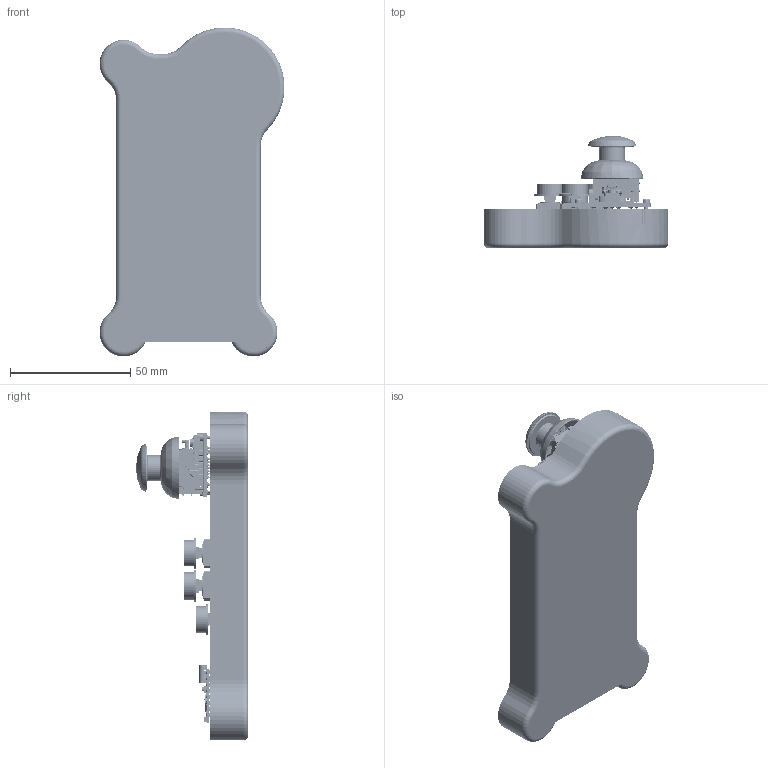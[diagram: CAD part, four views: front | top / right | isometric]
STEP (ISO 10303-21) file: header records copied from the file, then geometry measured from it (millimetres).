
FILE_DESCRIPTION(/* description */ ('','CAx-IF Rec.Pracs.---Representation and Presentation of Product Manufacturing Information (PMI)---4.0---2014-10-13'),/* implementation_level */ '2;1');
FILE_NAME(/* name */ 'esp32_c3_smini_controller_mini.stp',/* time_stamp */ '2026-06-07T19:51:05+02:00',/* author */ ('R5800u'),/* organization */ (''),/* preprocessor_version */ 'ST-DEVELOPER v20',/* originating_system */ 'Autodesk Inventor 2025',/* authorisation */ '');
FILE_SCHEMA (('AP242_MANAGED_MODEL_BASED_3D_ENGINEERING_MIM_LF { 1 0 10303 442 1 1 4 }'));
Products named in the file (58): esp32_c3_smini_scatola; Half-Size Breadboard; Main Half-Size Board; Half-Size Side Rail; scatola_esp32_c3_breadboard; Button 4 pins assembly; socket button; button; ESP32-C3 sm with expansion board; ESP32-C3 Super Mini breakout expansion board mo; ESP32-C3-SuperMini; 2025-08-30-17-43-03-298; 2025-08-30-17-43-03-305; 2025-08-30-17-43-03-307; 2025-08-30-17-43-03-312; 2025-08-30-17-43-03-328; 2025-08-30-17-43-03-327; 2025-08-30-17-43-03-327_1; 2025-08-30-17-43-03-327_2; 2025-08-30-17-43-03-327_3; 2025-08-30-17-43-03-327_4; 2025-08-30-17-43-03-327_5; 2025-08-30-17-43-03-342; 2025-08-30-17-43-03-357; 2025-08-30-17-43-03-358; 2025-08-30-17-43-03-365; 2025-08-30-17-43-03-333; 2025-08-30-17-43-03-333_1; 2025-08-30-17-43-03-333_2; 2025-08-30-17-43-03-333_3; 2025-08-30-17-43-03-333_4; 2025-08-30-17-43-03-333_5; 2025-08-30-17-43-03-333_6; 2025-08-30-17-43-03-333_7; 2025-08-30-17-43-03-333_8; 2025-08-30-17-43-03-340; 2025-08-30-17-43-03-339; 2025-08-30-17-43-03-339_1; 2025-08-30-17-43-03-339_2; 2025-08-30-17-43-03-340_1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
Assembly tree (105 placements, depth 7):
  esp32_c3_smini_scatola
    Half-Size Breadboard
      Main Half-Size Board
      Half-Size Side Rail  x2
    scatola_esp32_c3_breadboard
    Button 4 pins assembly  x4
      socket button
      button
    ESP32-C3 sm with expansion board
      ESP32-C3 Super Mini breakout expansion board mo
      ESP32-C3-SuperMini
        2025-08-30-17-43-03-298
        2025-08-30-17-43-03-305
        2025-08-30-17-43-03-307
        2025-08-30-17-43-03-312
        2025-08-30-17-43-03-328
          2025-08-30-17-43-03-327
            2025-08-30-17-43-03-327_1
            2025-08-30-17-43-03-327_2
            2025-08-30-17-43-03-327_3
            2025-08-30-17-43-03-327_4
            2025-08-30-17-43-03-327_5
        2025-08-30-17-43-03-342
        2025-08-30-17-43-03-357
        2025-08-30-17-43-03-358
        2025-08-30-17-43-03-365
          2025-08-30-17-43-03-333
            2025-08-30-17-43-03-333_1
              2025-08-30-17-43-03-333_6
              2025-08-30-17-43-03-333_7
              2025-08-30-17-43-03-333_8
          2025-08-30-17-43-03-330  x20
          2025-08-30-17-43-03-333_2
            2025-08-30-17-43-03-333_3
              2025-08-30-17-43-03-333_6
              2025-08-30-17-43-03-333_7
              2025-08-30-17-43-03-333_8
          2025-08-30-17-43-03-333_4
            2025-08-30-17-43-03-333_5
              2025-08-30-17-43-03-333_6
              2025-08-30-17-43-03-333_7
              2025-08-30-17-43-03-333_8
          2025-08-30-17-43-03-340
            2025-08-30-17-43-03-339
            2025-08-30-17-43-03-339_1
            2025-08-30-17-43-03-339_2
            2025-08-30-17-43-03-340_1
        2025-08-30-17-43-03-448
          2025-08-30-17-43-03-323  x2
            2025-08-30-17-43-03-322
              2025-08-30-17-43-03-321
              2025-08-30-17-43-03-321_1
              2025-08-30-17-43-03-321_2
              2025-08-30-17-43-03-322_1
              2025-08-30-17-43-03-322_2
              2025-08-30-17-43-03-322_3
              2025-08-30-17-43-03-322_4
        2025-08-30-17-43-03-448_1
          2025-08-30-17-43-03-310  x2
        pin0
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Bounding box: 76.96 x 46.7 x 136.85 mm (x, y, z)
Volume: 118161.5 mm3; surface area: 76960.3 mm2
Topology: 358 solids, 442 shells, 17175 faces, 45167 edges, 29000 vertices
Faces by surface type: plane 10704, bspline 3056, cylinder 2544, sphere 368, torus 326, cone 177
Full cylindrical faces by diameter (mm): 0.25 x1, 0.269 x1, 0.3 x1, 0.5 x16, 0.6 x2, 0.8 x1, 0.859 x48, 1.2 x1, 1.6 x3, 1.665 x32, 1.8 x9, 1.85 x1, 1.9 x9, 2 x10, 2.1 x2, 2.8 x1, 3 x7, 3.5 x1, 3.6 x1, 3.8 x2, 5.2 x2, 5.8 x1, 6.2 x2, 7 x1, 8 x6, 9 x1, 10.6 x1, 11 x4, 12 x1, 13 x4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
Entity records: 456334 total; most frequent: CARTESIAN_POINT 121033, ORIENTED_EDGE 70154, DIRECTION 63069, EDGE_CURVE 35245, LINE 25703, VECTOR 25703, VERTEX_POINT 22819, AXIS2_PLACEMENT_3D 18683
